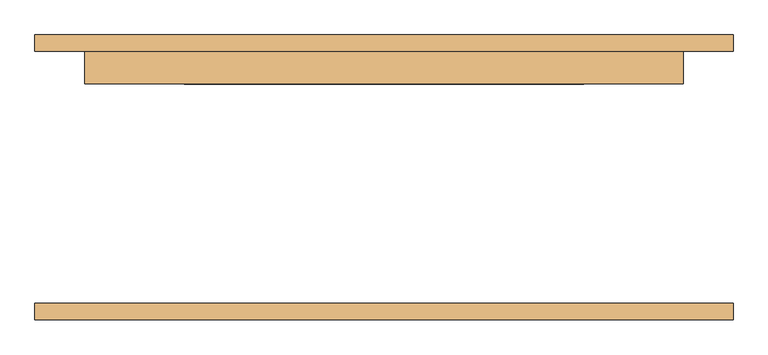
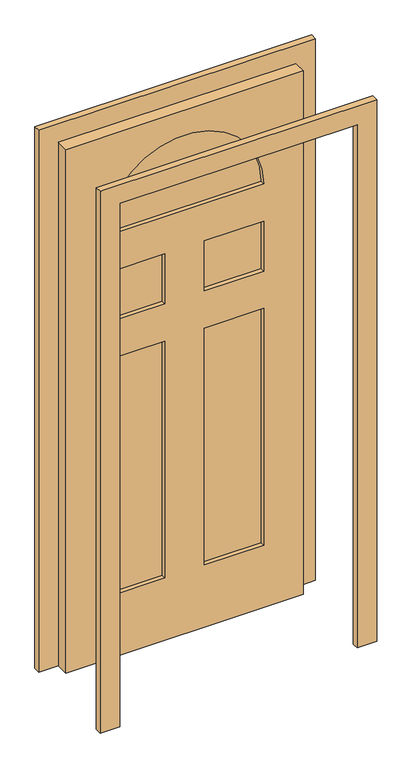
"""IFC4 building model written with IfcOpenShell, lengths in millimetres: door geometry, Одиночные-Декоративный 2 : 0915 x 2134 мм."""

from ifc_helpers import new_model, si_unit, point, frame, frame_2d, origin, place, context, project, spatial, polyline, circle_curve, trimmed, segment, composite_curve, outline, extrude, source, transform, mapped, element, save


def door_46358f34(model_context):
    return source(origin(), model_context, "Body", "SweptSolid", [
        extrude(outline(polyline([(2134.0, 457.5), (2134.0, -457.5), (0.0, -457.5), (0.0, 457.5), (2134.0, 457.5)]), holes=[polyline([(1219.3, -76.2), (254.0, -76.2), (254.0, -305.1), (1219.3, -305.1), (1219.3, -76.2)]), polyline([(1219.3, 305.1), (254.0, 305.1), (254.0, 76.2), (1219.3, 76.2), (1219.3, 305.1)]), polyline([(1371.7, -76.2), (1371.7, -305.1), (1574.9, -305.1), (1574.9, -76.2), (1371.7, -76.2)]), polyline([(1574.9, 76.2), (1574.9, 305.1), (1371.7, 305.1), (1371.7, 76.2), (1574.9, 76.2)]), composite_curve([segment(polyline([(1727.3, 305.1), (1727.3, -305.1)]), True, "CONTINUOUS"), segment(trimmed(circle_curve(frame_2d((1727.3, 0.0)), 305.1), [point((1727.3, -305.1))], [point((1727.3, 305.1))], True, "CARTESIAN"), True, "CONTINUOUS")], self_intersect=False)]), frame((0.0, 142.5, 0.0), z_axis=(0.0, 1.0, 0.0), x_axis=(0.0, 0.0, 1.0)), (0.0, 0.0, 1.0), 50.0),
        extrude(outline(polyline([(0.0, 457.5), (0.0, 533.5), (2209.0, 533.5), (2209.0, -533.5), (0.0, -533.5), (0.0, -457.5), (2134.0, -457.5), (2134.0, 457.5), (0.0, 457.5)])), frame((0.0, -217.5, 0.0), z_axis=(0.0, 1.0, 0.0), x_axis=(0.0, 0.0, 1.0)), (0.0, 0.0, 1.0), 25.0),
        extrude(outline(polyline([(2209.0, -533.5), (0.0, -533.5), (0.0, -457.5), (2134.0, -457.5), (2134.0, 457.5), (0.0, 457.5), (0.0, 533.5), (2209.0, 533.5), (2209.0, -533.5)])), frame((0.0, 192.5, 0.0), z_axis=(0.0, 1.0, 0.0), x_axis=(0.0, 0.0, 1.0)), (0.0, 0.0, 1.0), 25.0),
        extrude(outline(composite_curve([segment(trimmed(circle_curve(frame_2d((1727.3, 0.0)), 305.1), [point((1727.3, 305.1))], [point((1727.3, -305.1))], False, "CARTESIAN"), True, "CONTINUOUS"), segment(polyline([(1727.3, -305.1), (1727.3, 305.1)]), True, "CONTINUOUS")], self_intersect=False)), frame((0.0, 159.1666667, 0.0), z_axis=(0.0, 1.0, 0.0), x_axis=(0.0, 0.0, 1.0)), (0.0, 0.0, 1.0), 16.6666667),
        extrude(outline(polyline([(-305.1, 175.8333333), (-76.2, 175.8333333), (-76.2, 159.1666667), (-305.1, 159.1666667), (-305.1, 175.8333333)])), frame((0.0, 0.0, 254.0), z_axis=(0.0, 0.0, 1.0), x_axis=(1.0, 0.0, 0.0)), (0.0, 0.0, 1.0), 965.3),
        extrude(outline(polyline([(76.2, 175.8333333), (305.1, 175.8333333), (305.1, 159.1666667), (76.2, 159.1666667), (76.2, 175.8333333)])), frame((0.0, 0.0, 254.0), z_axis=(0.0, 0.0, 1.0), x_axis=(1.0, 0.0, 0.0)), (0.0, 0.0, 1.0), 965.3),
        extrude(outline(polyline([(76.2, 175.8333333), (305.1, 175.8333333), (305.1, 159.1666667), (76.2, 159.1666667), (76.2, 175.8333333)])), frame((0.0, 0.0, 1371.7), z_axis=(0.0, 0.0, 1.0), x_axis=(1.0, 0.0, 0.0)), (0.0, 0.0, 1.0), 203.2),
        extrude(outline(polyline([(-305.1, 175.8333333), (-76.2, 175.8333333), (-76.2, 159.1666667), (-305.1, 159.1666667), (-305.1, 175.8333333)])), frame((0.0, 0.0, 1371.7), z_axis=(0.0, 0.0, 1.0), x_axis=(1.0, 0.0, 0.0)), (0.0, 0.0, 1.0), 203.2),
    ])


if __name__ == "__main__":
    model = new_model("IFC4")
    model_context = context("Model", 3, world=origin())
    ifc_project = project(units=[si_unit("LENGTHUNIT", "METRE", prefix="MILLI")], contexts=[model_context])
    site = spatial("IfcSite", under=ifc_project)
    building = spatial("IfcBuilding", under=site)
    placement = place(None, origin())
    door_shape = door_46358f34(model_context)
    element("IfcDoor", 1, ObjectType="Одиночные-Декоративный 2 : 0915 x 2134 мм", at=placement, inside=building, context=model_context, shape_type="MappedRepresentation", body=[
        mapped(door_shape, transform((0.0, 0.0, 0.0), x_axis=(1.0, 0.0, 0.0), y_axis=(0.0, 1.0, 0.0), z_axis=(0.0, 0.0, 1.0))),
    ])
    save(model, "model.ifc")
